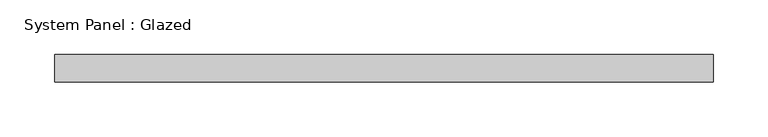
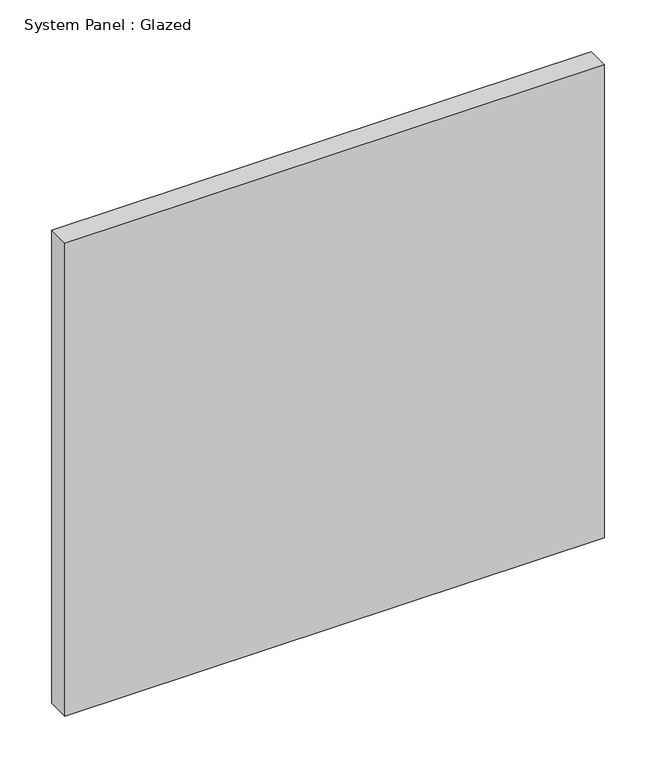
"""IFC4 building model written with IfcOpenShell, lengths in millimetres: plate geometry, System Panel : Glazed."""

from ifc_helpers import new_model, si_unit, origin, origin_with_axes, place, context, project, spatial, polyline, outline, extrude, source, transform, mapped, element, save


def system_panel_glazed_b8a51741(model_context):
    return source(origin(), model_context, "Body", "SweptSolid", [
        extrude(outline(polyline([(301.3712454, -12.7), (-301.3712454, -12.7), (-301.3712454, 12.7), (301.3712454, 12.7), (301.3712454, -12.7)])), origin_with_axes(), (0.0, 0.0, 1.0), 558.8),
    ])


if __name__ == "__main__":
    model = new_model("IFC4")
    model_context = context("Model", 3, world=origin())
    ifc_project = project(units=[si_unit("LENGTHUNIT", "METRE", prefix="MILLI")], contexts=[model_context])
    site = spatial("IfcSite", under=ifc_project)
    building = spatial("IfcBuilding", under=site)
    placement = place(None, origin())
    system_panel_glazed_shape = system_panel_glazed_b8a51741(model_context)
    element("IfcPlate", 1, ObjectType="System Panel : Glazed", at=placement, inside=building, context=model_context, shape_type="MappedRepresentation", body=[
        mapped(system_panel_glazed_shape, transform((0.0, 0.0, 0.0), x_axis=(1.0, 0.0, 0.0), y_axis=(0.0, 1.0, 0.0), z_axis=(0.0, 0.0, 1.0))),
    ])
    save(model, "model.ifc")
